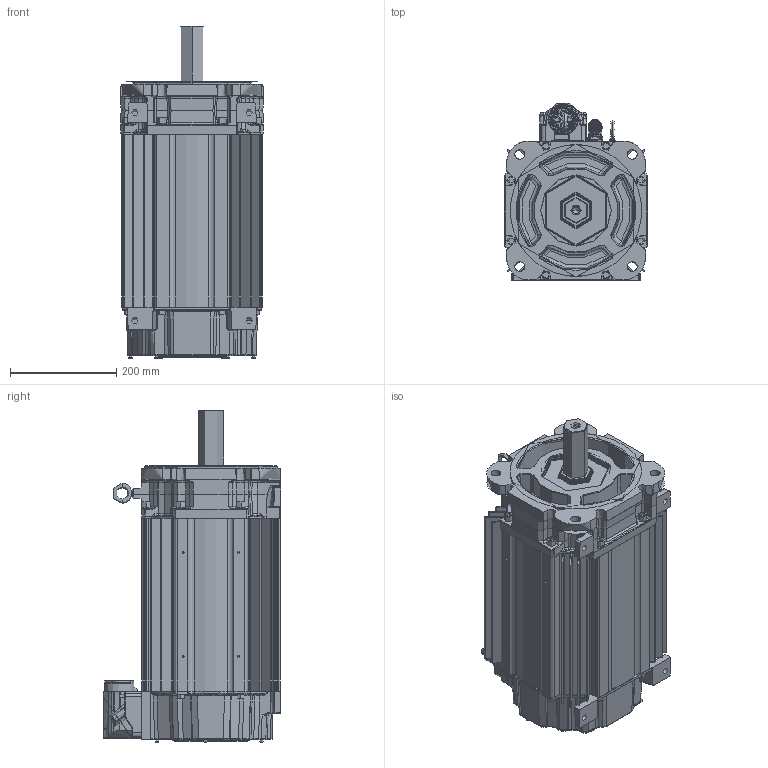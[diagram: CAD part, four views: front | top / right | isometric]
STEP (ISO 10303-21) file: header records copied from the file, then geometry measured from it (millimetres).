
FILE_DESCRIPTION((''),'2;1');
FILE_NAME('10005239736_ASM','2020-01-16T11:48:36',('VThimma'),('Rockwell Automation'),'CREO PARAMETRIC BY PTC INC, 2017380','CREO PARAMETRIC BY PTC INC, 2017380','');
FILE_SCHEMA(('CONFIG_CONTROL_DESIGN','SHAPE_APPEARANCE_LAYERS_GROUPS'));
Products named in the file (27): 10001441958; 10001404634_AF0; 10001404629_AF6; 10001404635_ASM; 10001585735; 10001442012_ASM; 10001439798_KEYLESS; 10001440031_ASM; 10001405269_AF28; 10001405370_ASM; 10001586887; 0002-5004; 10001609981; 10001737030; 10000014325-2; 10000014331; 10000014332-460; 10000014330-460_ASM; 10000172464; 10000046189; 10000046190; 10000046191; 10000046193_ASM; 10001586879; 10001408124; 221404-Q12; 10005239736_ASM
Assembly tree (51 placements, depth 4):
  10005239736_ASM
    10001442012_ASM
      10001441958
      10001404635_ASM
        10001404634_AF0
        10001404629_AF6
      10001585735  x8
    10001440031_ASM
      10001439798_KEYLESS
    10001405370_ASM
      10001405269_AF28
    10001586887  x7
    0002-5004  x2
    10001609981
    10001737030
    10000014330-460_ASM
      10000014325-2
      10000014331
      10000014332-460
    10000172464  x4
    10000046193_ASM
      10000046189
      10000046190
      10000046191
    10001586879  x4
    10001408124
    221404-Q12  x6
Bounding box: 269.49 x 335.29 x 626.33 mm (x, y, z)
Topology: 0 solids, 70 shells, 6695 faces, 17810 edges, 11255 vertices
Faces by surface type: cylinder 2474, plane 1681, bspline 1103, torus 778, cone 532, sphere 109, extrusion 17, revolution 1
Entity records: 336590 total; most frequent: CARTESIAN_POINT 111809, ORIENTED_EDGE 30609, DIRECTION 27451, PRESENTATION_STYLE_ASSIGNMENT 21069, STYLED_ITEM 21069, CURVE_STYLE 15358, EDGE_CURVE 15341, AXIS2_PLACEMENT_3D 11080
